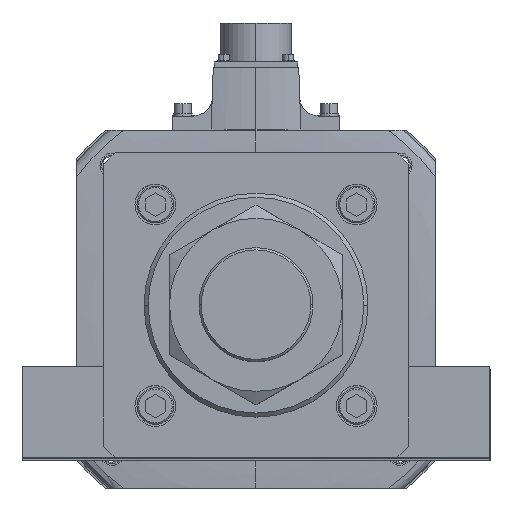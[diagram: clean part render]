
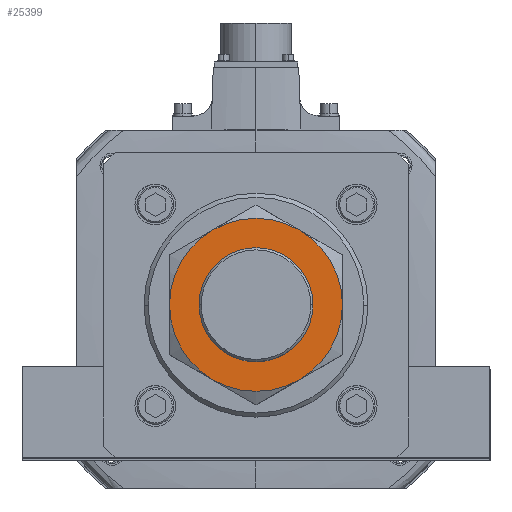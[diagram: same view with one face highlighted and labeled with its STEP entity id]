
A CAD part, top view. The second image highlights one B-rep face of the part: STEP entity #25399.
In plain terms, the highlighted planar face has unit normal (0, 0, 1).
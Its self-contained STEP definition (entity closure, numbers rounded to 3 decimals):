
#53 = EDGE_CURVE ( 'NONE', #53595, #12472, #36624, .T. ) ;
#128 = ORIENTED_EDGE ( 'NONE', *, *, #12837, .F. ) ;
#331 = CARTESIAN_POINT ( 'NONE',  ( 0., 0., 34. ) ) ;
#584 = DIRECTION ( 'NONE',  ( 0., 0., -1. ) ) ;
#659 = EDGE_LOOP ( 'NONE', ( #128, #14774, #10451, #40763, #39330, #24710 ) ) ;
#1053 = CARTESIAN_POINT ( 'NONE',  ( 42.5, 0., 34. ) ) ;
#4182 = EDGE_CURVE ( 'NONE', #28366, #22312, #49093, .T. ) ;
#4576 = EDGE_CURVE ( 'NONE', #24768, #10871, #43006, .T. ) ;
#6760 = VERTEX_POINT ( 'NONE', #23967 ) ;
#7714 = CIRCLE ( 'NONE', #12277, 42.5 ) ;
#8368 = ORIENTED_EDGE ( 'NONE', *, *, #4182, .F. ) ;
#8577 = CIRCLE ( 'NONE', #44799, 42.5 ) ;
#9050 = AXIS2_PLACEMENT_3D ( 'NONE', #331, #17346, #35183 ) ;
#9070 = DIRECTION ( 'NONE',  ( 1., 0., 0. ) ) ;
#10057 = ORIENTED_EDGE ( 'NONE', *, *, #18579, .F. ) ;
#10451 = ORIENTED_EDGE ( 'NONE', *, *, #22251, .F. ) ;
#10871 = VERTEX_POINT ( 'NONE', #1053 ) ;
#11474 = AXIS2_PLACEMENT_3D ( 'NONE', #54890, #29497, #46454 ) ;
#12277 = AXIS2_PLACEMENT_3D ( 'NONE', #35274, #22127, #39066 ) ;
#12472 = VERTEX_POINT ( 'NONE', #44498 ) ;
#12837 = EDGE_CURVE ( 'NONE', #10871, #53595, #29650, .T. ) ;
#14774 = ORIENTED_EDGE ( 'NONE', *, *, #4576, .F. ) ;
#16517 = EDGE_CURVE ( 'NONE', #20728, #6760, #33310, .T. ) ;
#17346 = DIRECTION ( 'NONE',  ( 0., 0., -1. ) ) ;
#17379 = DIRECTION ( 'NONE',  ( 0., 0., 1. ) ) ;
#18579 = EDGE_CURVE ( 'NONE', #22312, #28366, #43587, .T. ) ;
#20030 = DIRECTION ( 'NONE',  ( 0., 0., 1. ) ) ;
#20728 = VERTEX_POINT ( 'NONE', #23033 ) ;
#21842 = DIRECTION ( 'NONE',  ( -1., 0., 0. ) ) ;
#22026 = DIRECTION ( 'NONE',  ( 0., 0., -1. ) ) ;
#22127 = DIRECTION ( 'NONE',  ( 0., 0., -1. ) ) ;
#22251 = EDGE_CURVE ( 'NONE', #6760, #24768, #7714, .T. ) ;
#22312 = VERTEX_POINT ( 'NONE', #22328 ) ;
#22328 = CARTESIAN_POINT ( 'NONE',  ( -28., 0., 34. ) ) ;
#23033 = CARTESIAN_POINT ( 'NONE',  ( -42.5, 0., 34. ) ) ;
#23327 = CARTESIAN_POINT ( 'NONE',  ( 0., 0., 34. ) ) ;
#23967 = CARTESIAN_POINT ( 'NONE',  ( -21.25, 36.806, 34. ) ) ;
#24710 = ORIENTED_EDGE ( 'NONE', *, *, #53, .F. ) ;
#24768 = VERTEX_POINT ( 'NONE', #40423 ) ;
#25399 = ADVANCED_FACE ( 'NONE', ( #39581, #33526 ), #26210, .T. ) ;
#25814 = CARTESIAN_POINT ( 'NONE',  ( 0., 0., 34. ) ) ;
#26210 = PLANE ( 'NONE',  #54413 ) ;
#26573 = DIRECTION ( 'NONE',  ( 1., 0., 0. ) ) ;
#26660 = EDGE_CURVE ( 'NONE', #12472, #20728, #8577, .T. ) ;
#28309 = DIRECTION ( 'NONE',  ( 0., 0., -1. ) ) ;
#28366 = VERTEX_POINT ( 'NONE', #40316 ) ;
#29497 = DIRECTION ( 'NONE',  ( 0., 0., -1. ) ) ;
#29650 = CIRCLE ( 'NONE', #11474, 42.5 ) ;
#33026 = DIRECTION ( 'NONE',  ( 1., 0., 0. ) ) ;
#33310 = CIRCLE ( 'NONE', #41479, 42.5 ) ;
#33526 = FACE_BOUND ( 'NONE', #45586, .T. ) ;
#35183 = DIRECTION ( 'NONE',  ( 1., 0., 0. ) ) ;
#35274 = CARTESIAN_POINT ( 'NONE',  ( 0., 0., 34. ) ) ;
#36624 = CIRCLE ( 'NONE', #9050, 42.5 ) ;
#38115 = AXIS2_PLACEMENT_3D ( 'NONE', #51843, #584, #9070 ) ;
#39066 = DIRECTION ( 'NONE',  ( 1., 0., 0. ) ) ;
#39330 = ORIENTED_EDGE ( 'NONE', *, *, #26660, .F. ) ;
#39581 = FACE_OUTER_BOUND ( 'NONE', #659, .T. ) ;
#40316 = CARTESIAN_POINT ( 'NONE',  ( 28., 0., 34. ) ) ;
#40423 = CARTESIAN_POINT ( 'NONE',  ( 21.25, 36.806, 34. ) ) ;
#40763 = ORIENTED_EDGE ( 'NONE', *, *, #16517, .F. ) ;
#41479 = AXIS2_PLACEMENT_3D ( 'NONE', #25814, #22026, #21842 ) ;
#42052 = DIRECTION ( 'NONE',  ( 1., 0., 0. ) ) ;
#43006 = CIRCLE ( 'NONE', #38115, 42.5 ) ;
#43160 = CARTESIAN_POINT ( 'NONE',  ( 0., 0., 34. ) ) ;
#43587 = CIRCLE ( 'NONE', #52745, 28. ) ;
#44498 = CARTESIAN_POINT ( 'NONE',  ( -21.25, -36.806, 34. ) ) ;
#44799 = AXIS2_PLACEMENT_3D ( 'NONE', #46185, #28309, #42052 ) ;
#45586 = EDGE_LOOP ( 'NONE', ( #10057, #8368 ) ) ;
#46185 = CARTESIAN_POINT ( 'NONE',  ( 0., 0., 34. ) ) ;
#46454 = DIRECTION ( 'NONE',  ( 1., 0., 0. ) ) ;
#48565 = AXIS2_PLACEMENT_3D ( 'NONE', #23327, #53744, #49639 ) ;
#49093 = CIRCLE ( 'NONE', #48565, 28. ) ;
#49639 = DIRECTION ( 'NONE',  ( 1., 0., 0. ) ) ;
#49780 = CARTESIAN_POINT ( 'NONE',  ( 0., 0., 34. ) ) ;
#50262 = CARTESIAN_POINT ( 'NONE',  ( 21.25, -36.806, 34. ) ) ;
#51843 = CARTESIAN_POINT ( 'NONE',  ( 0., 0., 34. ) ) ;
#52745 = AXIS2_PLACEMENT_3D ( 'NONE', #49780, #20030, #33026 ) ;
#53595 = VERTEX_POINT ( 'NONE', #50262 ) ;
#53744 = DIRECTION ( 'NONE',  ( 0., 0., 1. ) ) ;
#54413 = AXIS2_PLACEMENT_3D ( 'NONE', #43160, #17379, #26573 ) ;
#54890 = CARTESIAN_POINT ( 'NONE',  ( 0., 0., 34. ) ) ;
